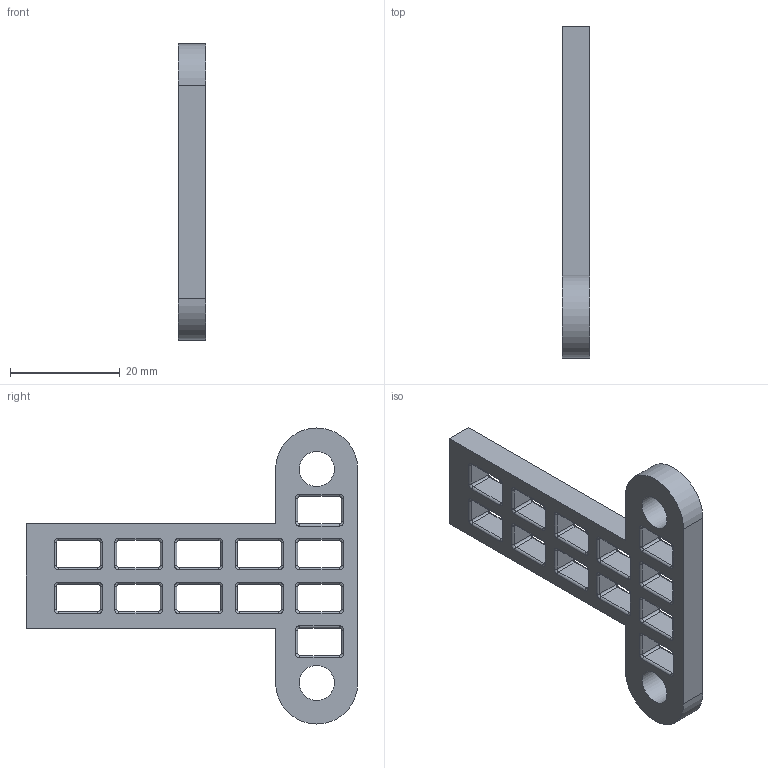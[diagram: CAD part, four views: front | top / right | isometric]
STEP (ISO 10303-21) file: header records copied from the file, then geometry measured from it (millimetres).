
FILE_DESCRIPTION(/* description */ ('STEP AP242 Edition 2','CAx-IF Rec.Pracs.---Representation and Presentation of Product Manufacturing Information (PMI)---4.0---2014-10-13','CAx-IF Rec.Pracs.---3D Tessellated Geometry---0.4---2014-09-14','2;1','CAx-IF Rec.Pracs.---User Defined Attributes---1.5---2016-08-15'),/* implementation_level */ '2;1');
FILE_NAME(/* name */ 'Assembly 1 - Arm1',/* time_stamp */ '2026-08-25T12:54:10Z',/* author */ (''),/* organization */ (''),/* preprocessor_version */ 'ST-DEVELOPER v20',/* originating_system */ 'ONSHAPE BY PTC INC, 1.219',/* authorisation */ ' ');
FILE_SCHEMA (('AP242_MANAGED_MODEL_BASED_3D_ENGINEERING_MIM_LF { 1 0 10303 442 3 1 4 }'));
Length unit declared in the file: metre
Products named in the file (1): Arm1
Bounding box: 5 x 60.5 x 54 mm (x, y, z)
Volume: 5395.1 mm3; surface area: 4864.9 mm2
Topology: 1 solids, 1 shells, 300 faces, 704 edges, 406 vertices
Faces by surface type: cylinder 148, torus 96, plane 56
Full cylindrical faces by diameter (mm): 6.4 x2
Entity records: 8590 total; most frequent: DIRECTION 1694, CARTESIAN_POINT 1405, ORIENTED_EDGE 1400, EDGE_CURVE 700, AXIS2_PLACEMENT_3D 693, VERTEX_POINT 404, CIRCLE 392, EDGE_LOOP 330
